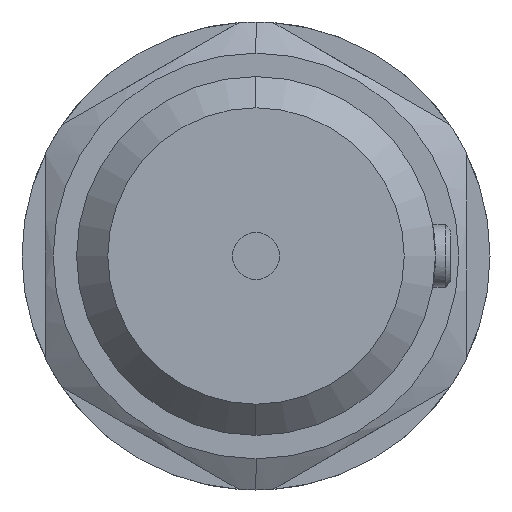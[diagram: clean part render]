
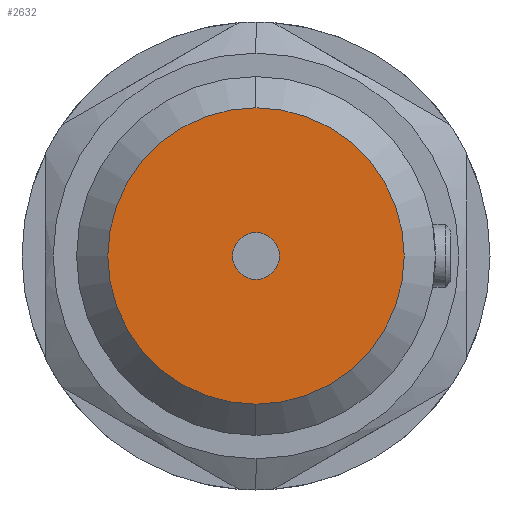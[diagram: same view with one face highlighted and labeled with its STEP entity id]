
A CAD part, left-side view. The second image highlights one B-rep face of the part: STEP entity #2632.
In plain terms, the highlighted planar face has unit normal (-1, 0, 0).
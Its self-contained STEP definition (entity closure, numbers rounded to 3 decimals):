
#61 = DIRECTION ( 'NONE',  ( 1., 0., 0. ) ) ;
#173 = VERTEX_POINT ( 'NONE', #6775 ) ;
#901 = FACE_OUTER_BOUND ( 'NONE', #1001, .T. ) ;
#1001 = EDGE_LOOP ( 'NONE', ( #1897, #5743 ) ) ;
#1370 = DIRECTION ( 'NONE',  ( 0., 0., 1. ) ) ;
#1487 = ORIENTED_EDGE ( 'NONE', *, *, #6687, .T. ) ;
#1897 = ORIENTED_EDGE ( 'NONE', *, *, #2730, .T. ) ;
#1956 = DIRECTION ( 'NONE',  ( 1., 0., 0. ) ) ;
#1972 = CARTESIAN_POINT ( 'NONE',  ( -22., 0., 0. ) ) ;
#2040 = EDGE_LOOP ( 'NONE', ( #7341, #1487 ) ) ;
#2088 = DIRECTION ( 'NONE',  ( 0., 0., 1. ) ) ;
#2632 = ADVANCED_FACE ( 'NONE', ( #901, #6662 ), #3752, .F. ) ;
#2730 = EDGE_CURVE ( 'NONE', #3788, #3853, #4963, .T. ) ;
#2756 = DIRECTION ( 'NONE',  ( 1., 0., 0. ) ) ;
#2940 = AXIS2_PLACEMENT_3D ( 'NONE', #1972, #6603, #1370 ) ;
#3114 = AXIS2_PLACEMENT_3D ( 'NONE', #6623, #1956, #3182 ) ;
#3154 = EDGE_CURVE ( 'NONE', #3853, #3788, #6010, .T. ) ;
#3182 = DIRECTION ( 'NONE',  ( 0., 0., 1. ) ) ;
#3198 = AXIS2_PLACEMENT_3D ( 'NONE', #3818, #2756, #2088 ) ;
#3365 = DIRECTION ( 'NONE',  ( -1., 0., 0. ) ) ;
#3404 = DIRECTION ( 'NONE',  ( 0., 0., 1. ) ) ;
#3752 = PLANE ( 'NONE',  #3114 ) ;
#3788 = VERTEX_POINT ( 'NONE', #5305 ) ;
#3818 = CARTESIAN_POINT ( 'NONE',  ( -22., 0., 0. ) ) ;
#3853 = VERTEX_POINT ( 'NONE', #4929 ) ;
#4673 = CIRCLE ( 'NONE', #5653, 1.5 ) ;
#4929 = CARTESIAN_POINT ( 'NONE',  ( -22., 0., -9.5 ) ) ;
#4963 = CIRCLE ( 'NONE', #5693, 9.5 ) ;
#5305 = CARTESIAN_POINT ( 'NONE',  ( -22., 0., 9.5 ) ) ;
#5653 = AXIS2_PLACEMENT_3D ( 'NONE', #7488, #61, #5791 ) ;
#5693 = AXIS2_PLACEMENT_3D ( 'NONE', #5778, #3365, #3404 ) ;
#5743 = ORIENTED_EDGE ( 'NONE', *, *, #3154, .T. ) ;
#5778 = CARTESIAN_POINT ( 'NONE',  ( -22., 0., 0. ) ) ;
#5791 = DIRECTION ( 'NONE',  ( 0., 0., 1. ) ) ;
#6010 = CIRCLE ( 'NONE', #2940, 9.5 ) ;
#6311 = EDGE_CURVE ( 'NONE', #173, #6990, #6486, .T. ) ;
#6486 = CIRCLE ( 'NONE', #3198, 1.5 ) ;
#6603 = DIRECTION ( 'NONE',  ( -1., 0., 0. ) ) ;
#6623 = CARTESIAN_POINT ( 'NONE',  ( -22., 0., 0. ) ) ;
#6662 = FACE_BOUND ( 'NONE', #2040, .T. ) ;
#6687 = EDGE_CURVE ( 'NONE', #6990, #173, #4673, .T. ) ;
#6742 = CARTESIAN_POINT ( 'NONE',  ( -22., 0., -1.5 ) ) ;
#6775 = CARTESIAN_POINT ( 'NONE',  ( -22., 0., 1.5 ) ) ;
#6990 = VERTEX_POINT ( 'NONE', #6742 ) ;
#7341 = ORIENTED_EDGE ( 'NONE', *, *, #6311, .T. ) ;
#7488 = CARTESIAN_POINT ( 'NONE',  ( -22., 0., 0. ) ) ;
